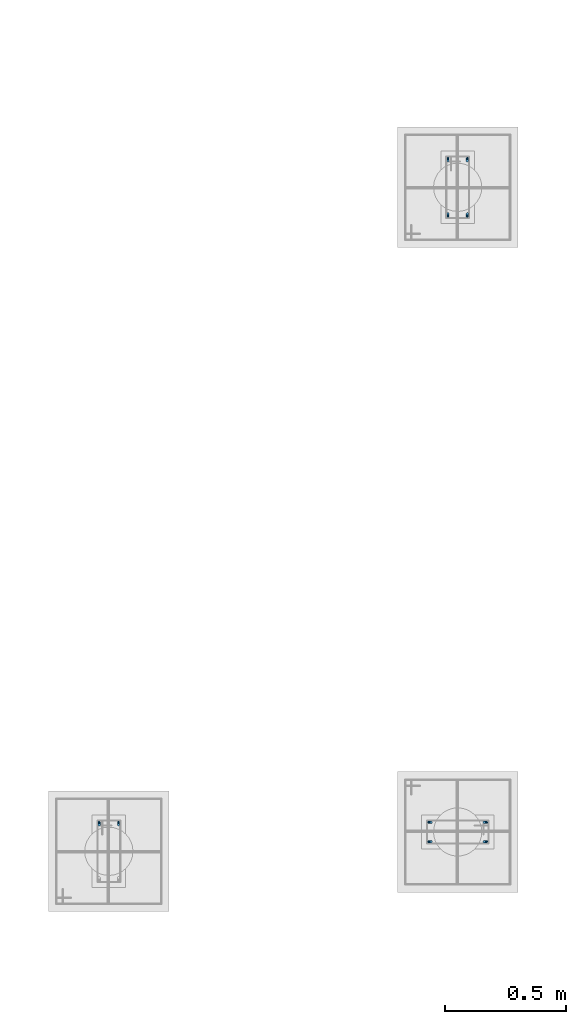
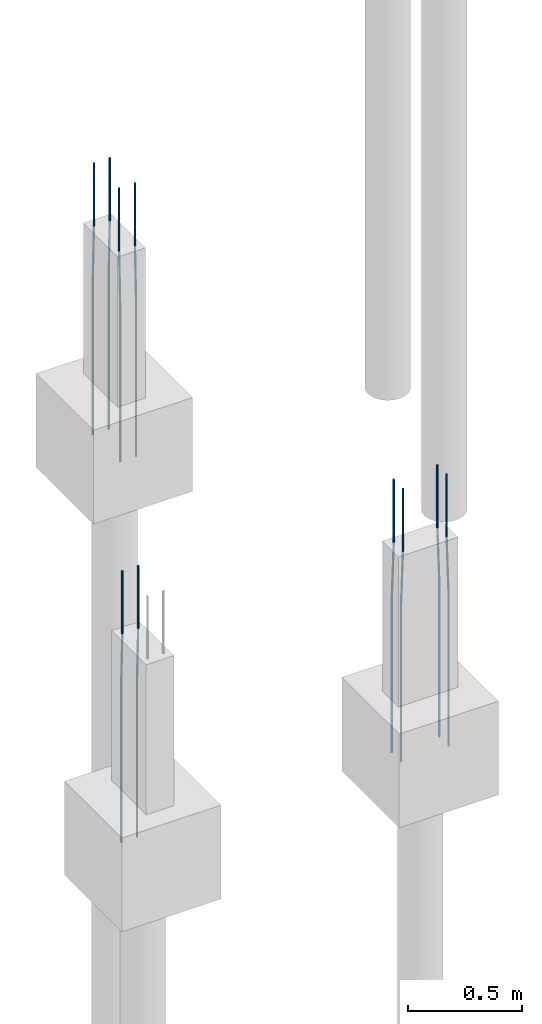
# One storey, part 55 of 119: 10 reinforcing bars.
"""IFC4 building model written with IfcOpenShell, lengths in centimetres."""

from ifc_helpers import new_model, entity, si_unit, derived_unit, frame, origin_with_axes, place, context, project, spatial, element, save


model = new_model("IFC4")

# Units and contexts
model_context = context("Model", 3, precision=1e-05, world=origin_with_axes(), identifier="Body")
ifc_project = project(units=[si_unit("LENGTHUNIT", "METRE", prefix="CENTI"), si_unit("VOLUMEUNIT", "CUBIC_METRE"), si_unit("AREAUNIT", "SQUARE_METRE"), si_unit("POWERUNIT", "WATT"), si_unit("LUMINOUSFLUXUNIT", "LUMEN"), si_unit("ELECTRICCURRENTUNIT", "AMPERE"), si_unit("PRESSUREUNIT", "PASCAL", prefix="KILO"), si_unit("MASSUNIT", "GRAM", prefix="KILO"), si_unit("PLANEANGLEUNIT", "RADIAN"), derived_unit("VOLUMETRICFLOWRATEUNIT", [(si_unit("LENGTHUNIT", "METRE"), 3), (si_unit("TIMEUNIT", "SECOND"), -1)])], contexts=[model_context])

# Site, building, storey
site_placement = place(None, frame((-4000.0, 0.0, 0.0), z_axis=(0.0, 0.0, 1.0), x_axis=(1.0, 0.0, 0.0)))
site = spatial("IfcSite", under=ifc_project, at=site_placement, Name="PADRÃO")
building_placement = place(site_placement, frame((0.0, 0.0, -14.0)))
building = spatial("IfcBuilding", under=site, at=building_placement, Name="CRECHE PRÉ-ESCOLA TIPO 2")
storey_placement = place(building_placement, origin_with_axes())
storey = spatial("IfcBuildingStorey", under=building, at=storey_placement, Name="FUNDAÇÃO", CompositionType="ELEMENT", Elevation=-14.0)

# Reinforcing bars
for number, where, z_axis, x_axis, name in (
    (1, (2664.0, 3453.08, 33.3573001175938), (0.0, 0.0, 1.0), (1.0, 0.0, 0.0), "P43 - Longitudinal"),
    (2, (2672.0, 3453.08, 33.3573001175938), (0.0, 0.0, 1.0), (1.0, 0.0, 0.0), "P43 - Longitudinal"),
):
    element("IfcReinforcingBar", number, at=place(storey_placement, frame(where, z_axis=z_axis, x_axis=x_axis)), inside=storey, Name=name, BarLength=0.0, CrossSectionArea=7.853981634e-05, NominalDiameter=1.0, PredefinedType="MAIN", context=model_context, shape_type="AdvancedSweptSolid", body=[
        entity("IfcSweptDiskSolid", entity("IfcCompositeCurve", [entity("IfcCompositeCurveSegment", "CONTINUOUS", True, entity("IfcPolyline", [entity("IfcCartesianPoint", [0.0, -0.5, -145.357300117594]), entity("IfcCartesianPoint", [0.0, -0.5, -63.3573001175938])])), entity("IfcCompositeCurveSegment", "CONTINUOUS", True, entity("IfcPolyline", [entity("IfcCartesianPoint", [0.0, -0.5, -63.3573001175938]), entity("IfcCartesianPoint", [0.0, 0.5, -33.3573001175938])])), entity("IfcCompositeCurveSegment", "CONTINUOUS", True, entity("IfcPolyline", [entity("IfcCartesianPoint", [0.0, 0.5, -33.3573001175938]), entity("IfcCartesianPoint", [0.0, 0.5, 0.0])]))], False), 0.5),
    ])
for number, where, z_axis, x_axis, name in (
    (3, (2672.0, 3476.08, 33.3573001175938), (0.0, 0.0, 1.0), (1.0, 0.0, 0.0), "P43 - Longitudinal"),
    (4, (2664.0, 3476.08, 33.3573001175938), (0.0, 0.0, 1.0), (1.0, 0.0, 0.0), "P43 - Longitudinal"),
    (5, (2527.5, 3201.02, 33.3573001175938), (0.0, 0.0, 1.0), (1.0, 0.0, 0.0), "P53 - Longitudinal"),
    (6, (2519.5, 3201.02, 33.3573001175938), (0.0, 0.0, 1.0), (1.0, 0.0, 0.0), "P53 - Longitudinal"),
):
    element("IfcReinforcingBar", number, at=place(storey_placement, frame(where, z_axis=z_axis, x_axis=x_axis)), inside=storey, Name=name, BarLength=0.0, CrossSectionArea=7.853981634e-05, NominalDiameter=1.0, PredefinedType="MAIN", context=model_context, shape_type="AdvancedSweptSolid", body=[
        entity("IfcSweptDiskSolid", entity("IfcCompositeCurve", [entity("IfcCompositeCurveSegment", "CONTINUOUS", True, entity("IfcPolyline", [entity("IfcCartesianPoint", [0.0, 0.5, -145.357300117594]), entity("IfcCartesianPoint", [0.0, 0.5, -63.3573001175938])])), entity("IfcCompositeCurveSegment", "CONTINUOUS", True, entity("IfcPolyline", [entity("IfcCartesianPoint", [0.0, 0.5, -63.3573001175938]), entity("IfcCartesianPoint", [0.0, -0.5, -33.3573001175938])])), entity("IfcCompositeCurveSegment", "CONTINUOUS", True, entity("IfcPolyline", [entity("IfcCartesianPoint", [0.0, -0.5, -33.3573001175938]), entity("IfcCartesianPoint", [0.0, -0.5, 0.0])]))], False), 0.5),
    ])
reinforcing_bar_1_placement = place(storey_placement, frame((2679.5, 3201.52, 33.3573001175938), z_axis=(0.0, 0.0, 1.0), x_axis=(1.0, 0.0, 0.0)))
element("IfcReinforcingBar", 7, at=reinforcing_bar_1_placement, inside=storey, Name="P54 - Longitudinal", BarLength=0.0, CrossSectionArea=7.853981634e-05, NominalDiameter=1.0, PredefinedType="MAIN", context=model_context, shape_type="AdvancedSweptSolid", body=[
    entity("IfcSweptDiskSolid", entity("IfcCompositeCurve", [entity("IfcCompositeCurveSegment", "CONTINUOUS", True, entity("IfcPolyline", [entity("IfcCartesianPoint", [0.5, 0.0, -145.357300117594]), entity("IfcCartesianPoint", [0.5, 0.0, -63.3573001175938])])), entity("IfcCompositeCurveSegment", "CONTINUOUS", True, entity("IfcPolyline", [entity("IfcCartesianPoint", [0.5, 0.0, -63.3573001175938]), entity("IfcCartesianPoint", [-0.5, 0.0, -33.3573001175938])])), entity("IfcCompositeCurveSegment", "CONTINUOUS", True, entity("IfcPolyline", [entity("IfcCartesianPoint", [-0.5, 0.0, -33.3573001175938]), entity("IfcCartesianPoint", [-0.5, 0.0, 0.0])]))], False), 0.5),
])
for number, where, z_axis, x_axis, name in (
    (8, (2656.5, 3201.52, 33.3573001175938), (0.0, 0.0, 1.0), (1.0, 0.0, 0.0), "P54 - Longitudinal"),
    (9, (2656.5, 3193.52, 33.3573001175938), (0.0, 0.0, 1.0), (1.0, 0.0, 0.0), "P54 - Longitudinal"),
):
    element("IfcReinforcingBar", number, at=place(storey_placement, frame(where, z_axis=z_axis, x_axis=x_axis)), inside=storey, Name=name, BarLength=0.0, CrossSectionArea=7.853981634e-05, NominalDiameter=1.0, PredefinedType="MAIN", context=model_context, shape_type="AdvancedSweptSolid", body=[
        entity("IfcSweptDiskSolid", entity("IfcCompositeCurve", [entity("IfcCompositeCurveSegment", "CONTINUOUS", True, entity("IfcPolyline", [entity("IfcCartesianPoint", [-0.5, 0.0, -145.357300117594]), entity("IfcCartesianPoint", [-0.5, 0.0, -63.3573001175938])])), entity("IfcCompositeCurveSegment", "CONTINUOUS", True, entity("IfcPolyline", [entity("IfcCartesianPoint", [-0.5, 0.0, -63.3573001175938]), entity("IfcCartesianPoint", [0.5, 0.0, -33.3573001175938])])), entity("IfcCompositeCurveSegment", "CONTINUOUS", True, entity("IfcPolyline", [entity("IfcCartesianPoint", [0.5, 0.0, -33.3573001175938]), entity("IfcCartesianPoint", [0.5, 0.0, 0.0])]))], False), 0.5),
    ])
reinforcing_bar_2_placement = place(storey_placement, frame((2679.5, 3193.52, 33.3573001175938), z_axis=(0.0, 0.0, 1.0), x_axis=(1.0, 0.0, 0.0)))
element("IfcReinforcingBar", 10, at=reinforcing_bar_2_placement, inside=storey, Name="P54 - Longitudinal", BarLength=0.0, CrossSectionArea=7.853981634e-05, NominalDiameter=1.0, PredefinedType="MAIN", context=model_context, shape_type="AdvancedSweptSolid", body=[
    entity("IfcSweptDiskSolid", entity("IfcCompositeCurve", [entity("IfcCompositeCurveSegment", "CONTINUOUS", True, entity("IfcPolyline", [entity("IfcCartesianPoint", [0.5, 0.0, -145.357300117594]), entity("IfcCartesianPoint", [0.5, 0.0, -63.3573001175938])])), entity("IfcCompositeCurveSegment", "CONTINUOUS", True, entity("IfcPolyline", [entity("IfcCartesianPoint", [0.5, 0.0, -63.3573001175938]), entity("IfcCartesianPoint", [-0.5, 0.0, -33.3573001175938])])), entity("IfcCompositeCurveSegment", "CONTINUOUS", True, entity("IfcPolyline", [entity("IfcCartesianPoint", [-0.5, 0.0, -33.3573001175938]), entity("IfcCartesianPoint", [-0.5, 0.0, 0.0])]))], False), 0.5),
])

save(model, "model.ifc")
